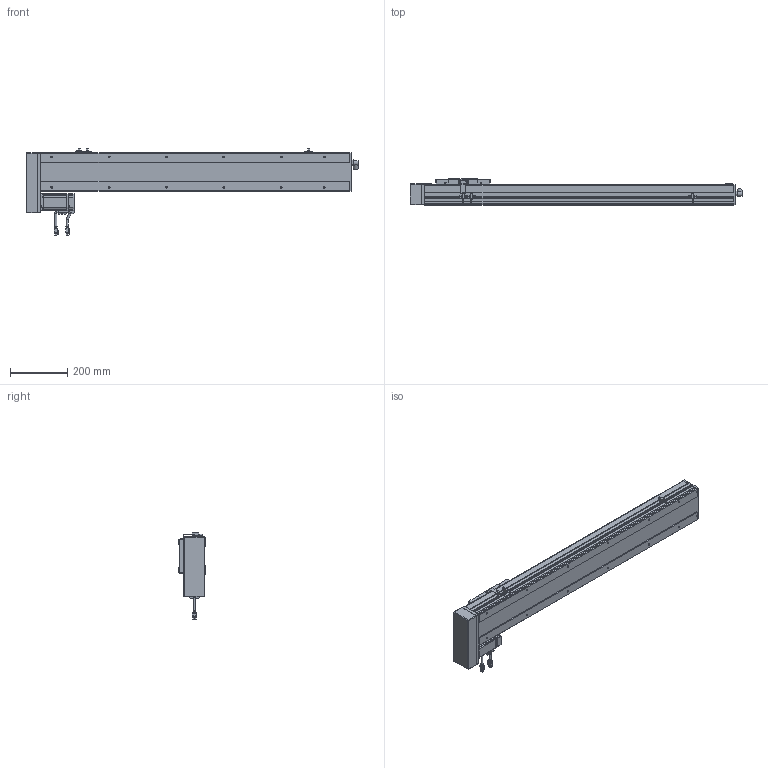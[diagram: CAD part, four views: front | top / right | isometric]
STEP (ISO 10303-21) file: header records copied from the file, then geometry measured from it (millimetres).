
FILE_DESCRIPTION(/* description */ ('STEP AP214'),/* implementation_level */ '2;1');
FILE_NAME(/* name */ 'PSC140-L05-S800-BR-P40-C1-N(0)',/* time_stamp */ '2022-06-13T03:35:31+02:00',/* author */ ('License CC BY-ND 4.0'),/* organization */ ('CADENAS'),/* preprocessor_version */ 'ST-DEVELOPER v18.102',/* originating_system */ 'PARTsolutions',/* authorisation */ ' ');
FILE_SCHEMA (('AUTOMOTIVE_DESIGN {1 0 10303 214 3 1 1}'));
Length unit declared in the file: millimetre
Products named in the file (11): PSC140-L05-S800-BR-P40-C1-N(0); P40-s2; P40-c2; P40-s1; P40-c1; P40-p1; PSC140-BR-body2; PSC140-sensor; PSC140-BR-SLIDER; PSC140-S800-BR-P40-C1_BODY1; PSC140-L05-S800-BR-P40-C1-N(0)_dummy
Assembly tree (12 placements, depth 2):
  PSC140-L05-S800-BR-P40-C1-N(0)
    P40-s2
    P40-c2
    P40-s1
    P40-c1
    P40-p1
    PSC140-BR-body2
    PSC140-sensor  x3
    PSC140-BR-SLIDER
    PSC140-S800-BR-P40-C1_BODY1
    PSC140-L05-S800-BR-P40-C1-N(0)_dummy
Bounding box: 1158 x 91 x 300.88 mm (x, y, z)
Volume: 11814256.7 mm3; surface area: 695006.6 mm2
Topology: 11 solids, 11 shells, 1231 faces, 3179 edges, 2103 vertices
Faces by surface type: plane 858, cylinder 314, cone 40, torus 19
Full cylindrical faces by diameter (mm): 1 x8, 2.6 x10, 2.8 x3, 3.3 x8, 4.5 x12, 4.6 x3, 4.917 x16, 5 x4, 5.5 x8, 6 x10, 7 x10, 9 x2, 10 x1, 11 x1, 12 x1, 13.74 x1, 14 x1, 16.4 x2, 16.5 x1, 36 x1, 50 x2
Entity records: 34086 total; most frequent: CARTESIAN_POINT 5953, DIRECTION 5731, ORIENTED_EDGE 5534, EDGE_CURVE 2767, LINE 2097, VECTOR 2097, VERTEX_POINT 1924, AXIS2_PLACEMENT_3D 1817
